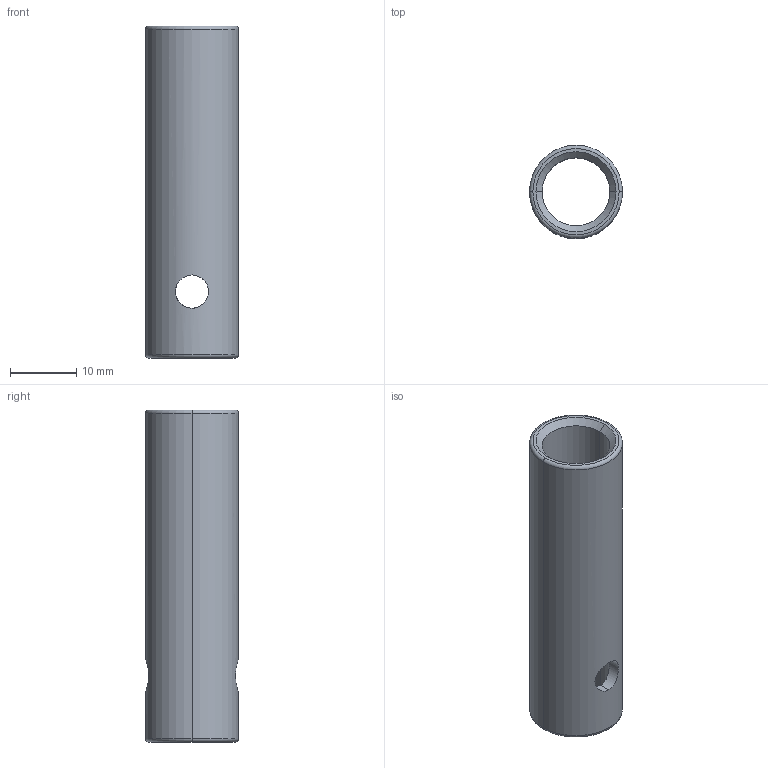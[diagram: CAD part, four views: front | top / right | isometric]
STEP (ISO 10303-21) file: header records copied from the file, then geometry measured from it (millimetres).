
FILE_DESCRIPTION (( 'STEP AP214' ), '1' );
FILE_NAME ('SMBY14-50.STEP', '2023-01-05T08:48:50', ( 'Windows User' ), ( 'P R C' ), 'SwSTEP 2.0', 'SolidWorks 2018', '' );
FILE_SCHEMA (( 'AUTOMOTIVE_DESIGN' ));
Length unit declared in the file: millimetre
Products named in the file (1): SMBY14-50
Bounding box: 14 x 14 x 50 mm (x, y, z)
Volume: 3336.5 mm3; surface area: 3923.4 mm2
Topology: 1 solids, 1 shells, 19 faces, 42 edges, 26 vertices
Faces by surface type: cylinder 10, torus 4, plane 3, cone 2
Entity records: 838 total; most frequent: CARTESIAN_POINT 344, DIRECTION 96, ORIENTED_EDGE 84, EDGE_CURVE 42, AXIS2_PLACEMENT_3D 42, VERTEX_POINT 26, EDGE_LOOP 26, CIRCLE 22
